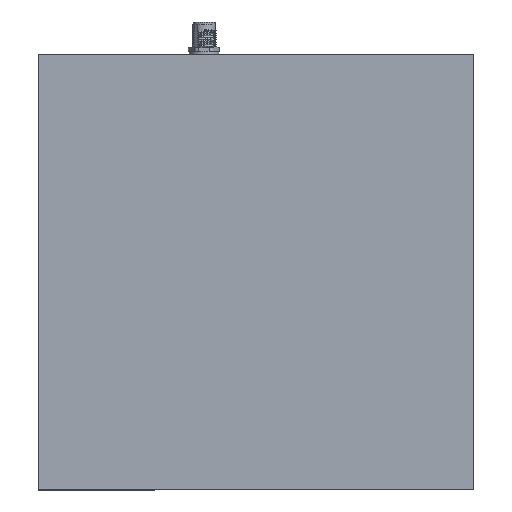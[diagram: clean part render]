
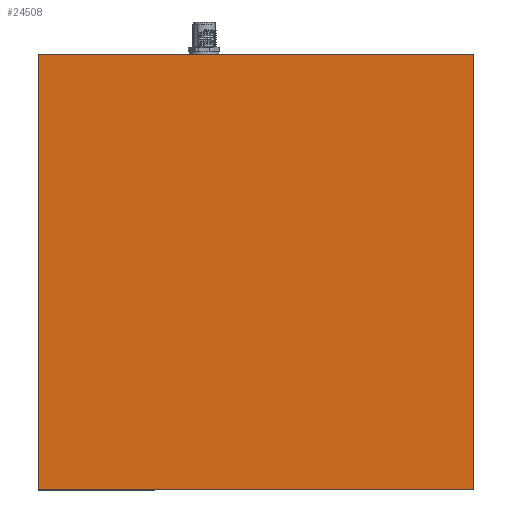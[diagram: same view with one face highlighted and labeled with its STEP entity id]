
A CAD part, top view. The second image highlights one B-rep face of the part: STEP entity #24508.
In plain terms, the highlighted planar face has unit normal (0, 0, 1).
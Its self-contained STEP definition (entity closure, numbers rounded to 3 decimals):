
#16176 = EDGE_CURVE ( 'NONE', #18409, #24657, #19875, .T. ) ;
#16330 = ORIENTED_EDGE ( 'NONE', *, *, #16176, .T. ) ;
#18409 = VERTEX_POINT ( 'NONE', #22525 ) ;
#18850 = ORIENTED_EDGE ( 'NONE', *, *, #24933, .T. ) ;
#19871 = DIRECTION ( 'NONE',  ( -1., 0., 0. ) ) ;
#19872 = VECTOR ( 'NONE', #19871, 1000. ) ;
#19874 = CARTESIAN_POINT ( 'NONE',  ( -103.859, 110.569, 0.924 ) ) ;
#19875 = LINE ( 'NONE', #19874, #19872 ) ;
#20876 = VERTEX_POINT ( 'NONE', #23435 ) ;
#22525 = CARTESIAN_POINT ( 'NONE',  ( 110.141, 110.569, 0.924 ) ) ;
#23435 = CARTESIAN_POINT ( 'NONE',  ( -103.859, -103.431, 0.924 ) ) ;
#24505 = EDGE_LOOP ( 'NONE', ( #24762, #24753, #18850, #16330 ) ) ;
#24506 = EDGE_CURVE ( 'NONE', #24657, #20876, #25086, .T. ) ;
#24508 = ADVANCED_FACE ( 'NONE', ( #25082 ), #25081, .T. ) ;
#24657 = VERTEX_POINT ( 'NONE', #25114 ) ;
#24753 = ORIENTED_EDGE ( 'NONE', *, *, #24760, .T. ) ;
#24758 = VERTEX_POINT ( 'NONE', #25149 ) ;
#24760 = EDGE_CURVE ( 'NONE', #20876, #24758, #25148, .T. ) ;
#24762 = ORIENTED_EDGE ( 'NONE', *, *, #24506, .T. ) ;
#24933 = EDGE_CURVE ( 'NONE', #24758, #18409, #25184, .T. ) ;
#25077 = DIRECTION ( 'NONE',  ( 1., 0., 0. ) ) ;
#25078 = DIRECTION ( 'NONE',  ( 0., 0., 1. ) ) ;
#25079 = CARTESIAN_POINT ( 'NONE',  ( -103.859, -103.431, 0.924 ) ) ;
#25080 = AXIS2_PLACEMENT_3D ( 'NONE', #25079, #25078, #25077 ) ;
#25081 = PLANE ( 'NONE',  #25080 ) ;
#25082 = FACE_OUTER_BOUND ( 'NONE', #24505, .T. ) ;
#25083 = DIRECTION ( 'NONE',  ( 0., -1., 0. ) ) ;
#25084 = VECTOR ( 'NONE', #25083, 1000. ) ;
#25085 = CARTESIAN_POINT ( 'NONE',  ( -103.859, 110.569, 0.924 ) ) ;
#25086 = LINE ( 'NONE', #25085, #25084 ) ;
#25114 = CARTESIAN_POINT ( 'NONE',  ( -103.859, 110.569, 0.924 ) ) ;
#25145 = DIRECTION ( 'NONE',  ( 1., 0., 0. ) ) ;
#25146 = VECTOR ( 'NONE', #25145, 1000. ) ;
#25147 = CARTESIAN_POINT ( 'NONE',  ( -103.859, -103.431, 0.924 ) ) ;
#25148 = LINE ( 'NONE', #25147, #25146 ) ;
#25149 = CARTESIAN_POINT ( 'NONE',  ( 110.141, -103.431, 0.924 ) ) ;
#25181 = DIRECTION ( 'NONE',  ( 0., 1., 0. ) ) ;
#25182 = VECTOR ( 'NONE', #25181, 1000. ) ;
#25183 = CARTESIAN_POINT ( 'NONE',  ( 110.141, 110.569, 0.924 ) ) ;
#25184 = LINE ( 'NONE', #25183, #25182 ) ;
